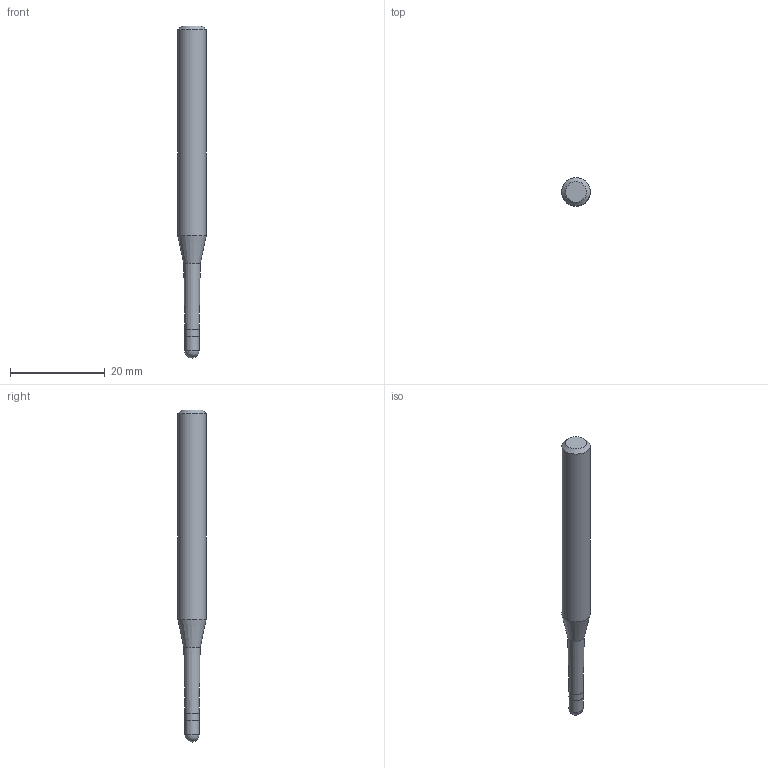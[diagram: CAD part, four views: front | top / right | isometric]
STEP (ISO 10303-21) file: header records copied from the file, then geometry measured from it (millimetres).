
FILE_DESCRIPTION((''),'2;1');
FILE_NAME('C:\Users\nsx150\AppData\Local\Temp\Mastercam 2021\E0ENTZRV18\TEMP.step','2021-09-02T09:57:18',(''),(''),'STEP Write','Mastercam 2021 ... CNC Software, Inc.','');
FILE_SCHEMA(('AUTOMOTIVE_DESIGN'));
Length unit declared in the file: millimetre
Products named in the file (1): None
Bounding box: 6 x 6 x 70 mm (x, y, z)
Volume: 1502.2 mm3; surface area: 1152.6 mm2
Topology: 2 solids, 2 shells, 10 faces, 16 edges, 9 vertices
Faces by surface type: plane 3, cylinder 3, cone 3, sphere 1
Full cylindrical faces by diameter (mm): 2.98 x1, 3 x1, 6 x1
Entity records: 232 total; most frequent: DIRECTION 40, CARTESIAN_POINT 28, AXIS2_PLACEMENT_3D 20, ORIENTED_EDGE 16, EDGE_LOOP 16, STYLED_ITEM 13, ADVANCED_FACE 10, FACE_BOUND 9
